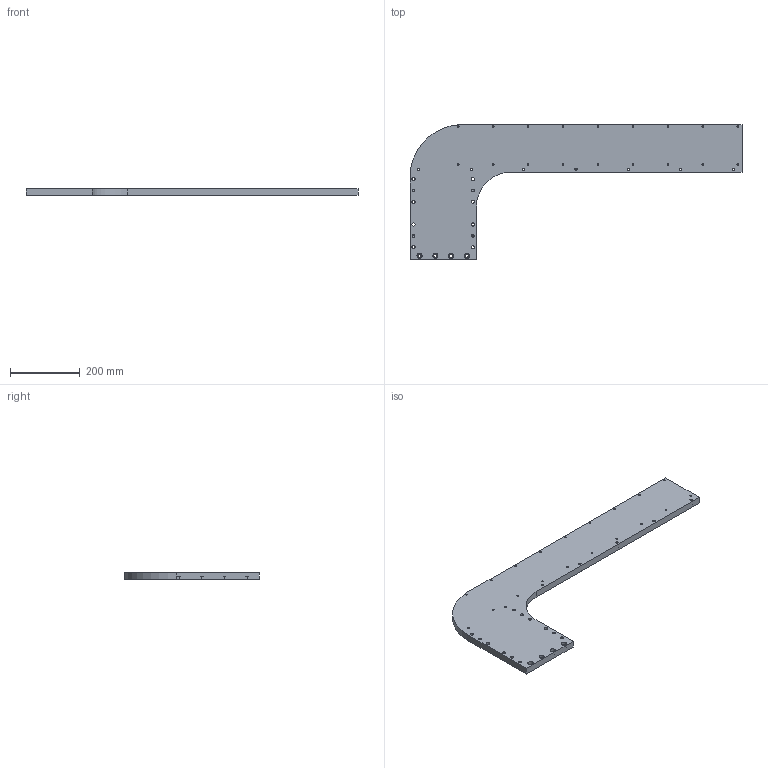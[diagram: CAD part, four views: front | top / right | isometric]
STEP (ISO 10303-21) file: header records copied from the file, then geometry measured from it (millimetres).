
FILE_DESCRIPTION (( 'STEP AP214' ), '1' );
FILE_NAME ('HY2609140121.step', '2026-09-29T02:49:24', ( '' ), ( '' ), 'SwSTEP 2.0', 'SolidWorks 2023', '' );
FILE_SCHEMA (( 'AUTOMOTIVE_DESIGN' ));
Length unit declared in the file: millimetre
Products named in the file (1): HY2609140121
Bounding box: 950 x 386 x 20 mm (x, y, z)
Volume: 3436603.3 mm3; surface area: 415792.9 mm2
Topology: 1 solids, 1 shells, 221 faces, 542 edges, 313 vertices
Faces by surface type: cylinder 136, cone 58, plane 27
Entity records: 6257 total; most frequent: DIRECTION 1200, CARTESIAN_POINT 1019, ORIENTED_EDGE 968, AXIS2_PLACEMENT_3D 494, EDGE_CURVE 484, VERTEX_POINT 313, EDGE_LOOP 307, CIRCLE 272
